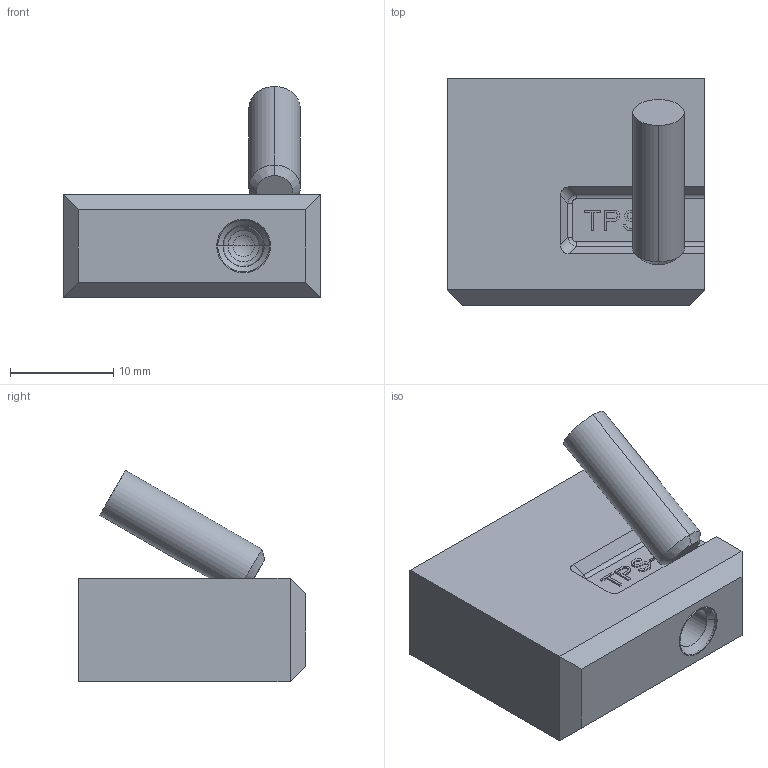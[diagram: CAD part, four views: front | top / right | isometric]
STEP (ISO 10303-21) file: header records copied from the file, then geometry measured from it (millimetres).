
FILE_DESCRIPTION((''),'2;1');
FILE_NAME('TPS-2','2012-11-08T',('gsawatzky'),(''),'PRO/ENGINEER BY PARAMETRIC TECHNOLOGY CORPORATION, 2011490','PRO/ENGINEER BY PARAMETRIC TECHNOLOGY CORPORATION, 2011490','');
FILE_SCHEMA(('CONFIG_CONTROL_DESIGN'));
Length unit declared in the file: millimetre
Products named in the file (1): TPS-2
Bounding box: 25 x 22 x 20.47 mm (x, y, z)
Volume: 4667.7 mm3; surface area: 2766 mm2
Topology: 1 solids, 3 shells, 267 faces, 727 edges, 490 vertices
Faces by surface type: plane 207, cylinder 24, extrusion 15, bspline 10, cone 8, sphere 2, torus 1
Entity records: 10218 total; most frequent: CARTESIAN_POINT 3554, ORIENTED_EDGE 1408, DIRECTION 1230, EDGE_CURVE 706, VECTOR 626, LINE 611, VERTEX_POINT 462, AXIS2_PLACEMENT_3D 302
